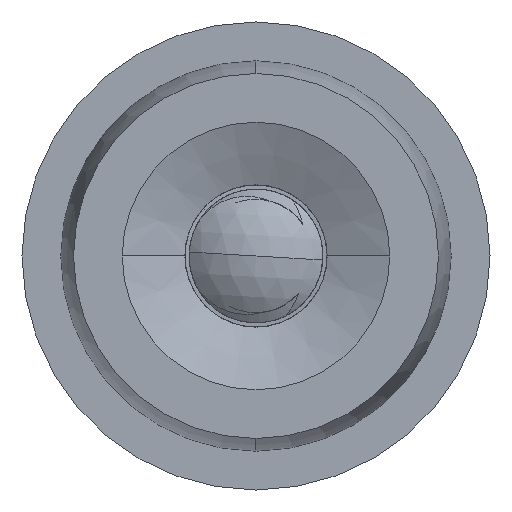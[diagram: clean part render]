
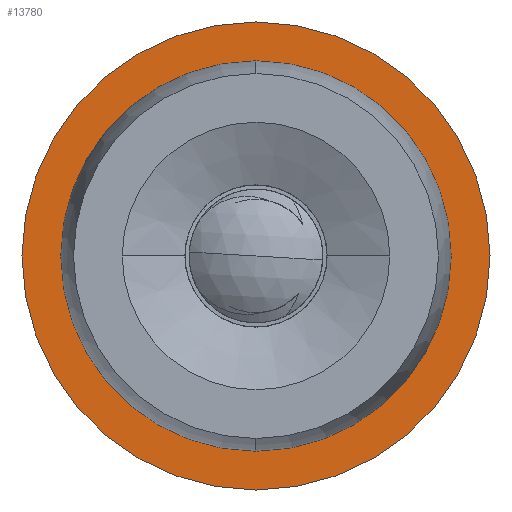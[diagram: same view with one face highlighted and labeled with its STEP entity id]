
A CAD part, left-side view. The second image highlights one B-rep face of the part: STEP entity #13780.
In plain terms, the highlighted planar face has unit normal (-1, 0, 0).
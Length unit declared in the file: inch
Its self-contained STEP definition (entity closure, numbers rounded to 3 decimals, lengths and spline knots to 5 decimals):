
#159 = DIRECTION ( 'NONE',  ( 0., 0., 1. ) ) ;
#276 = CARTESIAN_POINT ( 'NONE',  ( 1.6222, 1.27982, 1.44035 ) ) ;
#1250 = CARTESIAN_POINT ( 'NONE',  ( 1.6222, 1.27982, 1.80535 ) ) ;
#1303 = CIRCLE ( 'NONE', #16679, 0.4375 ) ;
#1409 = PLANE ( 'NONE',  #14776 ) ;
#1587 = DIRECTION ( 'NONE',  ( 0., 0., 1. ) ) ;
#1775 = ORIENTED_EDGE ( 'NONE', *, *, #14923, .F. ) ;
#3107 = AXIS2_PLACEMENT_3D ( 'NONE', #7787, #16986, #9046 ) ;
#4215 = CARTESIAN_POINT ( 'NONE',  ( 1.6222, 1.27982, 1.44035 ) ) ;
#4458 = AXIS2_PLACEMENT_3D ( 'NONE', #6335, #6280, #6235 ) ;
#4729 = EDGE_LOOP ( 'NONE', ( #1775, #16513 ) ) ;
#5354 = EDGE_LOOP ( 'NONE', ( #11206, #14497 ) ) ;
#5496 = DIRECTION ( 'NONE',  ( 0., 0., 1. ) ) ;
#5675 = CIRCLE ( 'NONE', #4458, 0.365 ) ;
#5771 = EDGE_CURVE ( 'NONE', #8332, #11518, #5675, .T. ) ;
#6235 = DIRECTION ( 'NONE',  ( 0., 0., 1. ) ) ;
#6280 = DIRECTION ( 'NONE',  ( -1., 0., 0. ) ) ;
#6335 = CARTESIAN_POINT ( 'NONE',  ( 1.6222, 1.27982, 1.44035 ) ) ;
#6388 = CIRCLE ( 'NONE', #14177, 0.365 ) ;
#7787 = CARTESIAN_POINT ( 'NONE',  ( 1.6222, 1.27982, 1.44035 ) ) ;
#7842 = CARTESIAN_POINT ( 'NONE',  ( 1.6222, 1.27982, 1.00285 ) ) ;
#7904 = VERTEX_POINT ( 'NONE', #7842 ) ;
#7981 = DIRECTION ( 'NONE',  ( -1., 0., 0. ) ) ;
#8332 = VERTEX_POINT ( 'NONE', #11831 ) ;
#9046 = DIRECTION ( 'NONE',  ( 0., 0., 1. ) ) ;
#9382 = DIRECTION ( 'NONE',  ( -1., 0., 0. ) ) ;
#10957 = CIRCLE ( 'NONE', #3107, 0.4375 ) ;
#11206 = ORIENTED_EDGE ( 'NONE', *, *, #11510, .T. ) ;
#11289 = VERTEX_POINT ( 'NONE', #16131 ) ;
#11510 = EDGE_CURVE ( 'NONE', #11289, #7904, #10957, .T. ) ;
#11518 = VERTEX_POINT ( 'NONE', #1250 ) ;
#11682 = EDGE_CURVE ( 'NONE', #7904, #11289, #1303, .T. ) ;
#11788 = FACE_OUTER_BOUND ( 'NONE', #5354, .T. ) ;
#11831 = CARTESIAN_POINT ( 'NONE',  ( 1.6222, 1.27982, 1.07535 ) ) ;
#13321 = DIRECTION ( 'NONE',  ( -1., 0., 0. ) ) ;
#13739 = FACE_BOUND ( 'NONE', #4729, .T. ) ;
#13780 = ADVANCED_FACE ( 'NONE', ( #11788, #13739 ), #1409, .T. ) ;
#14177 = AXIS2_PLACEMENT_3D ( 'NONE', #4215, #13321, #5496 ) ;
#14497 = ORIENTED_EDGE ( 'NONE', *, *, #11682, .T. ) ;
#14776 = AXIS2_PLACEMENT_3D ( 'NONE', #15874, #7981, #159 ) ;
#14923 = EDGE_CURVE ( 'NONE', #11518, #8332, #6388, .T. ) ;
#15874 = CARTESIAN_POINT ( 'NONE',  ( 1.6222, 1.27982, 1.07535 ) ) ;
#16131 = CARTESIAN_POINT ( 'NONE',  ( 1.6222, 1.27982, 1.87785 ) ) ;
#16513 = ORIENTED_EDGE ( 'NONE', *, *, #5771, .F. ) ;
#16679 = AXIS2_PLACEMENT_3D ( 'NONE', #276, #9382, #1587 ) ;
#16986 = DIRECTION ( 'NONE',  ( -1., 0., 0. ) ) ;
